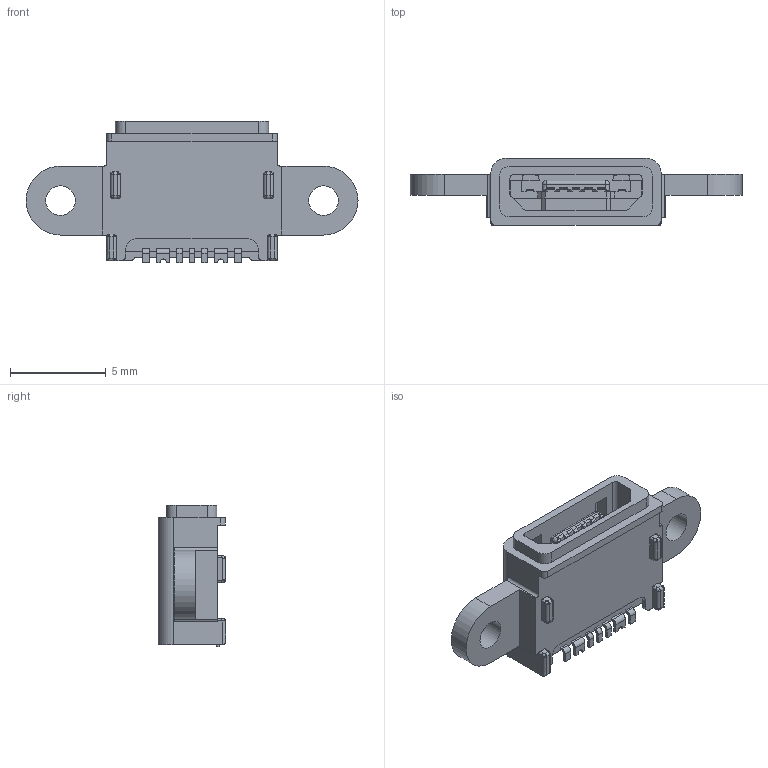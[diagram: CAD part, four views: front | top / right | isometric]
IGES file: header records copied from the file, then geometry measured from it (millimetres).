
Start section:  PTC IGES file: s7-a_micro_usb_7pi0001.igs
Global section: file name: s7-a_micro_usb_7pi0001.igs; native system: Creo Parametric by PTC Inc.; preprocessor: 2024063; author: lenovo; organization: Unknown; date: 20260508.162143; units: millimetre
Bounding box: 17.35 x 3.53 x 7.4 mm (x, y, z)
Surface area: 467.7 mm2 (no closed solid volume)
Topology: 0 solids, 1 shells, 618 faces, 1630 edges, 1030 vertices
Faces by surface type: bspline 477, revolution 141
